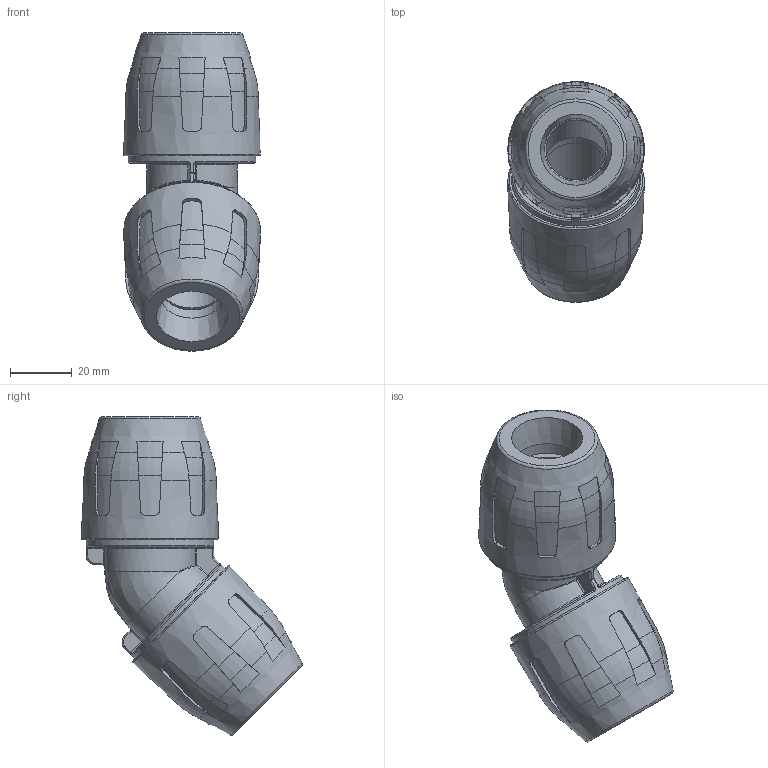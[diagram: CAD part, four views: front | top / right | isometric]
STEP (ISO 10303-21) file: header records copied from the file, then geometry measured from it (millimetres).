
FILE_DESCRIPTION( ( 'STEP AP214' ), '1' );
FILE_NAME( ' ', ' ', ( ' ' ), ( ' ' ), 'PSStep 11.0', 'VISI 17.0', ' ' );
FILE_SCHEMA( ( 'AUTOMOTIVE_DESIGN { 1 0 10303 214 1 1 1 1 }' ) );
Length unit declared in the file: millimetre
Products named in the file (3): 1; 2; 3
Bounding box: 44.43 x 71.74 x 103.57 mm (x, y, z)
Volume: 93492.6 mm3; surface area: 48805.6 mm2
Topology: 3 solids, 3 shells, 543 faces, 1411 edges, 874 vertices
Faces by surface type: plane 222, cone 142, cylinder 78, bspline 66, torus 25, sphere 10
Full cylindrical faces by diameter (mm): 19.5 x2, 20.5 x2, 20.6 x2, 32.2 x2, 32.3 x2, 33.9 x2, 36 x2, 36.739 x2, 36.8 x2, 37.4 x2, 41.4 x2, 42 x2
Entity records: 25863 total; most frequent: CARTESIAN_POINT 9334, ORIENTED_EDGE 2640, DIRECTION 2412, EDGE_CURVE 1320, AXIS2_PLACEMENT_3D 1058, VERTEX_POINT 845, EDGE_LOOP 611, FACE_OUTER_BOUND 579
